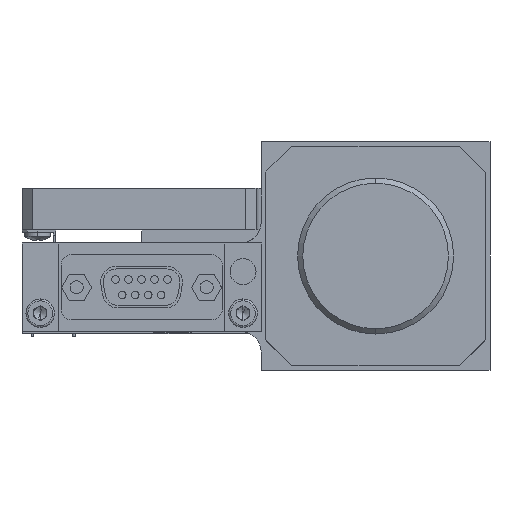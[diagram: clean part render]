
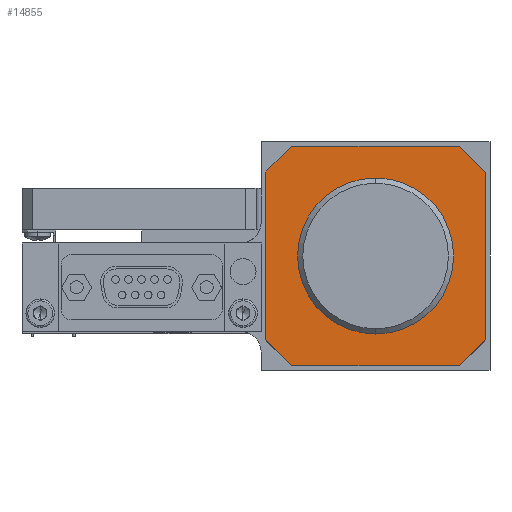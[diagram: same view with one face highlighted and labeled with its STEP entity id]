
A CAD part, left-side view. The second image highlights one B-rep face of the part: STEP entity #14855.
In plain terms, the highlighted planar face has unit normal (-1, 0, 0).
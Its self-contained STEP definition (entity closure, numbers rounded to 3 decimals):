
#1081 = EDGE_CURVE ( 'NONE', #30793, #30870, #37671, .T. ) ;
#1082 = EDGE_CURVE ( 'NONE', #30790, #30826, #37677, .T. ) ;
#1083 = EDGE_CURVE ( 'NONE', #30785, #30818, #37680, .T. ) ;
#1084 = EDGE_CURVE ( 'NONE', #34720, #34660, #37678, .T. ) ;
#3854 = CARTESIAN_POINT ( 'NONE',  ( -102., -44.15, 36.15 ) ) ;
#5663 = EDGE_CURVE ( 'NONE', #34660, #34720, #29755, .T. ) ;
#5692 = EDGE_CURVE ( 'NONE', #30785, #24073, #29805, .T. ) ;
#5698 = EDGE_CURVE ( 'NONE', #30790, #30818, #29821, .T. ) ;
#5704 = EDGE_CURVE ( 'NONE', #30793, #30826, #29833, .T. ) ;
#5710 = EDGE_CURVE ( 'NONE', #30834, #30870, #29845, .T. ) ;
#5712 = EDGE_CURVE ( 'NONE', #30834, #24073, #29849, .T. ) ;
#5907 = AXIS2_PLACEMENT_3D ( 'NONE', #28564, #28566, #28568 ) ;
#6070 = AXIS2_PLACEMENT_3D ( 'NONE', #25685, #25682, #25689 ) ;
#10431 = ORIENTED_EDGE ( 'NONE', *, *, #5710, .T. ) ;
#10451 = ORIENTED_EDGE ( 'NONE', *, *, #1081, .F. ) ;
#10460 = ORIENTED_EDGE ( 'NONE', *, *, #5712, .F. ) ;
#10657 = ORIENTED_EDGE ( 'NONE', *, *, #1083, .F. ) ;
#10705 = ORIENTED_EDGE ( 'NONE', *, *, #5698, .T. ) ;
#10707 = ORIENTED_EDGE ( 'NONE', *, *, #1082, .F. ) ;
#10765 = ORIENTED_EDGE ( 'NONE', *, *, #5704, .T. ) ;
#11105 = ORIENTED_EDGE ( 'NONE', *, *, #5663, .F. ) ;
#11151 = ORIENTED_EDGE ( 'NONE', *, *, #1084, .F. ) ;
#11179 = ORIENTED_EDGE ( 'NONE', *, *, #5692, .T. ) ;
#13433 = EDGE_LOOP ( 'NONE', ( #10460, #10431, #10451, #10765, #10707, #10705, #10657, #11179 ) ) ;
#13435 = EDGE_LOOP ( 'NONE', ( #11151, #11105 ) ) ;
#14855 = ADVANCED_FACE ( 'NONE', ( #30235, #30223 ), #25687, .F. ) ;
#24073 = VERTEX_POINT ( 'NONE', #3854 ) ;
#25682 = DIRECTION ( 'NONE',  ( 1., 0., 0. ) ) ;
#25685 = CARTESIAN_POINT ( 'NONE',  ( -102., -49.15, 36.15 ) ) ;
#25687 = PLANE ( 'NONE',  #6070 ) ;
#25689 = DIRECTION ( 'NONE',  ( 0., 0., -1. ) ) ;
#28564 = CARTESIAN_POINT ( 'NONE',  ( -102., -28., 15. ) ) ;
#28566 = DIRECTION ( 'NONE',  ( -1., 0., 0. ) ) ;
#28568 = DIRECTION ( 'NONE',  ( 0., 0., -1. ) ) ;
#28681 = CARTESIAN_POINT ( 'NONE',  ( -102., -49.15, 31.15 ) ) ;
#28695 = DIRECTION ( 'NONE',  ( 0., 0.707, 0.707 ) ) ;
#28717 = CARTESIAN_POINT ( 'NONE',  ( -102., -44.15, -6.15 ) ) ;
#28719 = DIRECTION ( 'NONE',  ( 0., -0.707, 0.707 ) ) ;
#28744 = CARTESIAN_POINT ( 'NONE',  ( -102., -6.85, -1.15 ) ) ;
#28746 = DIRECTION ( 'NONE',  ( 0., -0.707, -0.707 ) ) ;
#28770 = CARTESIAN_POINT ( 'NONE',  ( -102., -11.85, 36.15 ) ) ;
#28773 = DIRECTION ( 'NONE',  ( 0., 0.707, -0.707 ) ) ;
#28778 = CARTESIAN_POINT ( 'NONE',  ( -102., -6.85, 36.15 ) ) ;
#28781 = DIRECTION ( 'NONE',  ( 0., -1., 0. ) ) ;
#29755 = CIRCLE ( 'NONE', #5907, 2.5 ) ;
#29805 = LINE ( 'NONE', #28681, #29812 ) ;
#29812 = VECTOR ( 'NONE', #28695, 1000. ) ;
#29821 = LINE ( 'NONE', #28717, #29824 ) ;
#29824 = VECTOR ( 'NONE', #28719, 1000. ) ;
#29833 = LINE ( 'NONE', #28744, #29836 ) ;
#29836 = VECTOR ( 'NONE', #28746, 1000. ) ;
#29845 = LINE ( 'NONE', #28770, #29848 ) ;
#29848 = VECTOR ( 'NONE', #28773, 1000. ) ;
#29849 = LINE ( 'NONE', #28778, #29852 ) ;
#29852 = VECTOR ( 'NONE', #28781, 1000. ) ;
#30223 = FACE_BOUND ( 'NONE', #13435, .T. ) ;
#30235 = FACE_OUTER_BOUND ( 'NONE', #13433, .T. ) ;
#30785 = VERTEX_POINT ( 'NONE', #51273 ) ;
#30790 = VERTEX_POINT ( 'NONE', #51277 ) ;
#30793 = VERTEX_POINT ( 'NONE', #51287 ) ;
#30818 = VERTEX_POINT ( 'NONE', #51312 ) ;
#30826 = VERTEX_POINT ( 'NONE', #51320 ) ;
#30834 = VERTEX_POINT ( 'NONE', #51328 ) ;
#30870 = VERTEX_POINT ( 'NONE', #51364 ) ;
#34660 = VERTEX_POINT ( 'NONE', #41111 ) ;
#34720 = VERTEX_POINT ( 'NONE', #41171 ) ;
#35339 = AXIS2_PLACEMENT_3D ( 'NONE', #59532, #59531, #59530 ) ;
#37671 = LINE ( 'NONE', #59537, #37679 ) ;
#37672 = VECTOR ( 'NONE', #59533, 1000. ) ;
#37674 = VECTOR ( 'NONE', #59534, 1000. ) ;
#37677 = LINE ( 'NONE', #59536, #37674 ) ;
#37678 = CIRCLE ( 'NONE', #35339, 2.5 ) ;
#37679 = VECTOR ( 'NONE', #59535, 1000. ) ;
#37680 = LINE ( 'NONE', #59388, #37672 ) ;
#41111 = CARTESIAN_POINT ( 'NONE',  ( -102., -28., 17.5 ) ) ;
#41171 = CARTESIAN_POINT ( 'NONE',  ( -102., -28., 12.5 ) ) ;
#51273 = CARTESIAN_POINT ( 'NONE',  ( -102., -49.15, 31.15 ) ) ;
#51277 = CARTESIAN_POINT ( 'NONE',  ( -102., -44.15, -6.15 ) ) ;
#51287 = CARTESIAN_POINT ( 'NONE',  ( -102., -6.85, -1.15 ) ) ;
#51312 = CARTESIAN_POINT ( 'NONE',  ( -102., -49.15, -1.15 ) ) ;
#51320 = CARTESIAN_POINT ( 'NONE',  ( -102., -11.85, -6.15 ) ) ;
#51328 = CARTESIAN_POINT ( 'NONE',  ( -102., -11.85, 36.15 ) ) ;
#51364 = CARTESIAN_POINT ( 'NONE',  ( -102., -6.85, 31.15 ) ) ;
#59388 = CARTESIAN_POINT ( 'NONE',  ( -102., -49.15, 36.15 ) ) ;
#59530 = DIRECTION ( 'NONE',  ( 0., 0., -1. ) ) ;
#59531 = DIRECTION ( 'NONE',  ( -1., 0., 0. ) ) ;
#59532 = CARTESIAN_POINT ( 'NONE',  ( -102., -28., 15. ) ) ;
#59533 = DIRECTION ( 'NONE',  ( 0., 0., -1. ) ) ;
#59534 = DIRECTION ( 'NONE',  ( 0., 1., 0. ) ) ;
#59535 = DIRECTION ( 'NONE',  ( 0., 0., 1. ) ) ;
#59536 = CARTESIAN_POINT ( 'NONE',  ( -102., -6.85, -6.15 ) ) ;
#59537 = CARTESIAN_POINT ( 'NONE',  ( -102., -6.85, 36.15 ) ) ;
